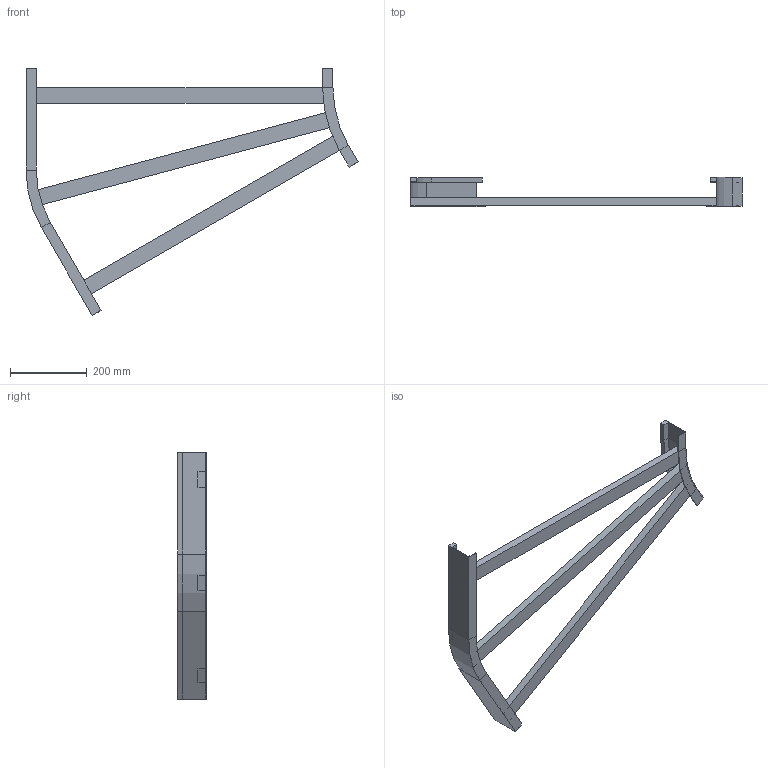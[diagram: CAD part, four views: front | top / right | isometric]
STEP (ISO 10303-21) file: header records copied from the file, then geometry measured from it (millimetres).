
FILE_DESCRIPTION (( 'STEP AP214' ), '1' );
FILE_NAME ('B2_12B3C800.step', '2025-02-21T15:11:29', ( '' ), ( '' ), 'SwSTEP 2.0', 'SolidWorks 2023', '' );
FILE_SCHEMA (( 'AUTOMOTIVE_DESIGN' ));
Length unit declared in the file: millimetre
Products named in the file (5): B2_LONGH.ESTERNO 30°_H75_R300+800; TRAVERSINO_800; B2_LONGH.INTERNO 30°_H75_R300; B2_12B3C800; TRAVERSINO_L823
Assembly tree (5 placements, depth 2):
  B2_12B3C800
    B2_LONGH.INTERNO 30°_H75_R300
    B2_LONGH.ESTERNO 30°_H75_R300+800
    TRAVERSINO_800  x2
    TRAVERSINO_L823
Bounding box: 865.19 x 75 x 643.3 mm (x, y, z)
Volume: 2325758.2 mm3; surface area: 521162.2 mm2
Topology: 5 solids, 5 shells, 70 faces, 148 edges, 88 vertices
Faces by surface type: plane 62, cylinder 8
Entity records: 1822 total; most frequent: DIRECTION 296, CARTESIAN_POINT 288, ORIENTED_EDGE 272, EDGE_CURVE 136, VECTOR 120, LINE 120, AXIS2_PLACEMENT_3D 88, VERTEX_POINT 80
